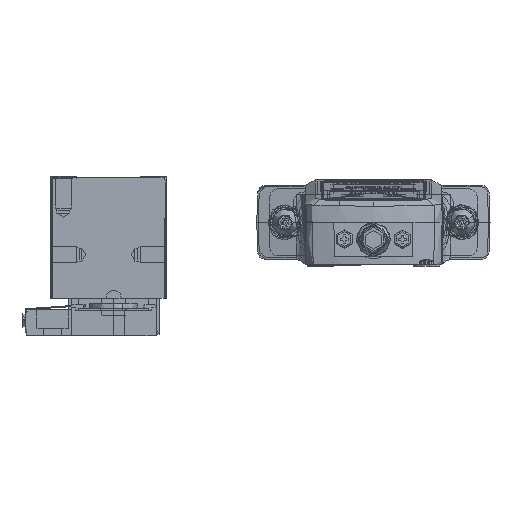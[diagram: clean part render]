
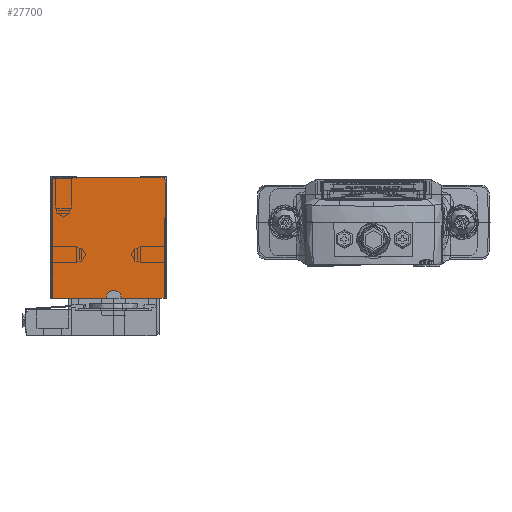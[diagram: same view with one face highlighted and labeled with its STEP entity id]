
A CAD part, left-side view. The second image highlights one B-rep face of the part: STEP entity #27700.
In plain terms, the highlighted planar face has unit normal (-1, 0, 0).
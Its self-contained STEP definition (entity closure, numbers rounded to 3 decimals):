
#270=CARTESIAN_POINT('',(0.,21.5,0.));
#280=VERTEX_POINT('',#270);
#510=CARTESIAN_POINT('',(0.,17.,0.));
#520=VERTEX_POINT('',#510);
#550=CARTESIAN_POINT('',(0.,0.,0.));
#560=DIRECTION('',(0.,1.,0.));
#570=VECTOR('',#560,1.);
#580=LINE('',#550,#570);
#590=EDGE_CURVE('',#520,#280,#580,.T.);
#830=CARTESIAN_POINT('',(0.,0.5,-8.));
#840=VERTEX_POINT('',#830);
#5020=CARTESIAN_POINT('',(0.,21.5,-23.));
#5030=VERTEX_POINT('',#5020);
#5060=CARTESIAN_POINT('',(0.,0.,-23.));
#5070=DIRECTION('',(0.,-1.,0.));
#5080=VECTOR('',#5070,1.);
#5090=LINE('',#5060,#5080);
#5100=CARTESIAN_POINT('',(0.,11.4,-23.));
#5110=VERTEX_POINT('',#5100);
#5120=EDGE_CURVE('',#5030,#5110,#5090,.T.);
#5340=CARTESIAN_POINT('',(0.,8.6,-23.));
#5350=VERTEX_POINT('',#5340);
#5380=CARTESIAN_POINT('',(0.,0.,-23.));
#5390=DIRECTION('',(0.,1.,0.));
#5400=VECTOR('',#5390,1.);
#5410=LINE('',#5380,#5400);
#5420=CARTESIAN_POINT('',(0.,0.5,-23.));
#5430=VERTEX_POINT('',#5420);
#5440=EDGE_CURVE('',#5430,#5350,#5410,.T.);
#13810=CARTESIAN_POINT('',(0.,0.5,0.));
#13820=DIRECTION('',(0.,0.,-1.));
#13830=VECTOR('',#13820,1.);
#13840=LINE('',#13810,#13830);
#13850=CARTESIAN_POINT('',(0.,0.5,-7.9));
#13860=VERTEX_POINT('',#13850);
#13870=EDGE_CURVE('',#13860,#840,#13840,.T.);
#14740=CARTESIAN_POINT('',(0.,0.2,-1.1));
#14750=VERTEX_POINT('',#14740);
#14780=CARTESIAN_POINT('',(0.,1.1,-1.1));
#14790=DIRECTION('',(1.,0.,0.));
#14800=DIRECTION('',(0.,-1.,0.));
#14810=AXIS2_PLACEMENT_3D('',#14780,#14790,#14800);
#14820=CIRCLE('',#14810,0.9);
#14830=CARTESIAN_POINT('',(0.,1.1,-0.2));
#14840=VERTEX_POINT('',#14830);
#14850=EDGE_CURVE('',#14840,#14750,#14820,.T.);
#15630=CARTESIAN_POINT('',(0.,21.5,-11.5));
#15640=DIRECTION('',(0.,0.,-1.));
#15650=VECTOR('',#15640,1.);
#15660=LINE('',#15630,#15650);
#15670=EDGE_CURVE('',#280,#5030,#15660,.T.);
#16600=CARTESIAN_POINT('',(0.,10.2,-22.8));
#16610=DIRECTION('',(1.,0.,0.));
#16620=DIRECTION('',(0.,-1.,0.));
#16630=AXIS2_PLACEMENT_3D('',#16600,#16610,#16620);
#16640=CIRCLE('',#16630,1.2);
#16650=CARTESIAN_POINT('',(0.,11.4,-22.8));
#16660=VERTEX_POINT('',#16650);
#16670=CARTESIAN_POINT('',(0.,10.2,-21.6));
#16680=VERTEX_POINT('',#16670);
#16690=EDGE_CURVE('',#16660,#16680,#16640,.T.);
#17720=CARTESIAN_POINT('',(0.,0.5,-15.5));
#17730=DIRECTION('',(0.,0.,-1.));
#17740=VECTOR('',#17730,1.);
#17750=LINE('',#17720,#17740);
#17760=EDGE_CURVE('',#840,#5430,#17750,.T.);
#17880=CARTESIAN_POINT('',(0.,9.8,-22.8));
#17890=DIRECTION('',(1.,0.,0.));
#17900=DIRECTION('',(0.,-1.,0.));
#17910=AXIS2_PLACEMENT_3D('',#17880,#17890,#17900);
#17920=CIRCLE('',#17910,1.2);
#17930=CARTESIAN_POINT('',(0.,9.8,-21.6));
#17940=VERTEX_POINT('',#17930);
#17950=CARTESIAN_POINT('',(0.,8.6,-22.8));
#17960=VERTEX_POINT('',#17950);
#17970=EDGE_CURVE('',#17940,#17960,#17920,.T.);
#20220=CARTESIAN_POINT('',(0.,0.,-21.6));
#20230=DIRECTION('',(0.,1.,0.));
#20240=VECTOR('',#20230,1.);
#20250=LINE('',#20220,#20240);
#20260=EDGE_CURVE('',#17940,#16680,#20250,.T.);
#20530=CARTESIAN_POINT('',(0.,17.,-0.5));
#20540=VERTEX_POINT('',#20530);
#20590=CARTESIAN_POINT('',(0.,17.,0.));
#20600=DIRECTION('',(0.,0.,-1.));
#20610=VECTOR('',#20600,1.);
#20620=LINE('',#20590,#20610);
#20630=EDGE_CURVE('',#520,#20540,#20620,.T.);
#21300=CARTESIAN_POINT('',(0.,11.4,0.));
#21310=DIRECTION('',(0.,0.,-1.));
#21320=VECTOR('',#21310,1.);
#21330=LINE('',#21300,#21320);
#21340=EDGE_CURVE('',#16660,#5110,#21330,.T.);
#24020=CARTESIAN_POINT('',(0.,8.6,0.));
#24030=DIRECTION('',(0.,0.,1.));
#24040=VECTOR('',#24030,1.);
#24050=LINE('',#24020,#24040);
#24060=EDGE_CURVE('',#5350,#17960,#24050,.T.);
#26690=CARTESIAN_POINT('',(0.,5.646,-7.9));
#26700=DIRECTION('',(0.,1.,0.));
#26710=VECTOR('',#26700,1.);
#26720=LINE('',#26690,#26710);
#26730=CARTESIAN_POINT('',(0.,0.2,-7.9));
#26740=VERTEX_POINT('',#26730);
#26750=EDGE_CURVE('',#26740,#13860,#26720,.T.);
#27210=CARTESIAN_POINT('',(0.,21.9,-6.));
#27220=DIRECTION('',(-1.,-0.,-0.));
#27230=DIRECTION('',(0.,0.,-1.));
#27240=AXIS2_PLACEMENT_3D('',#27210,#27220,#27230);
#27250=PLANE('',#27240);
#27260=CARTESIAN_POINT('',(0.,5.646,
-0.2));
#27270=DIRECTION('',(0.,-1.,0.));
#27280=VECTOR('',#27270,1.);
#27290=LINE('',#27260,#27280);
#27300=CARTESIAN_POINT('',(0.,16.95,-0.2));
#27310=VERTEX_POINT('',#27300);
#27320=EDGE_CURVE('',#27310,#14840,#27290,.T.);
#27330=ORIENTED_EDGE('',*,*,#27320,.F.);
#27340=ORIENTED_EDGE('',*,*,#14850,.F.);
#27350=CARTESIAN_POINT('',(0.,0.2,
-0.2));
#27360=DIRECTION('',(0.,0.,-1.));
#27370=VECTOR('',#27360,1.);
#27380=LINE('',#27350,#27370);
#27390=EDGE_CURVE('',#14750,#26740,#27380,.T.);
#27400=ORIENTED_EDGE('',*,*,#27390,.F.);
#27410=ORIENTED_EDGE('',*,*,#26750,.F.);
#27420=ORIENTED_EDGE('',*,*,#13870,.F.);
#27430=ORIENTED_EDGE('',*,*,#17760,.F.);
#27440=ORIENTED_EDGE('',*,*,#5440,.F.);
#27450=ORIENTED_EDGE('',*,*,#24060,.F.);
#27460=ORIENTED_EDGE('',*,*,#17970,.T.);
#27470=ORIENTED_EDGE('',*,*,#20260,.F.);
#27480=ORIENTED_EDGE('',*,*,#16690,.T.);
#27490=ORIENTED_EDGE('',*,*,#21340,.F.);
#27500=ORIENTED_EDGE('',*,*,#5120,.T.);
#27510=ORIENTED_EDGE('',*,*,#15670,.T.);
#27520=ORIENTED_EDGE('',*,*,#590,.T.);
#27530=ORIENTED_EDGE('',*,*,#20630,.F.);
#27540=CARTESIAN_POINT('',(0.,0.,-0.5));
#27550=DIRECTION('',(0.,1.,0.));
#27560=VECTOR('',#27550,1.);
#27570=LINE('',#27540,#27560);
#27580=CARTESIAN_POINT('',(0.,16.95,-0.5));
#27590=VERTEX_POINT('',#27580);
#27600=EDGE_CURVE('',#27590,#20540,#27570,.T.);
#27610=ORIENTED_EDGE('',*,*,#27600,.T.);
#27620=CARTESIAN_POINT('',(0.,16.95,-0.8));
#27630=DIRECTION('',(0.,0.,1.));
#27640=VECTOR('',#27630,1.);
#27650=LINE('',#27620,#27640);
#27660=EDGE_CURVE('',#27590,#27310,#27650,.T.);
#27670=ORIENTED_EDGE('',*,*,#27660,.F.);
#27680=EDGE_LOOP('',(#27670,#27610,#27530,#27520,#27510,#27500,#27490,
#27480,#27470,#27460,#27450,#27440,#27430,#27420,#27410,#27400,#27340,
#27330));
#27690=FACE_OUTER_BOUND('',#27680,.T.);
#27700=ADVANCED_FACE('',(#27690),#27250,.T.);
